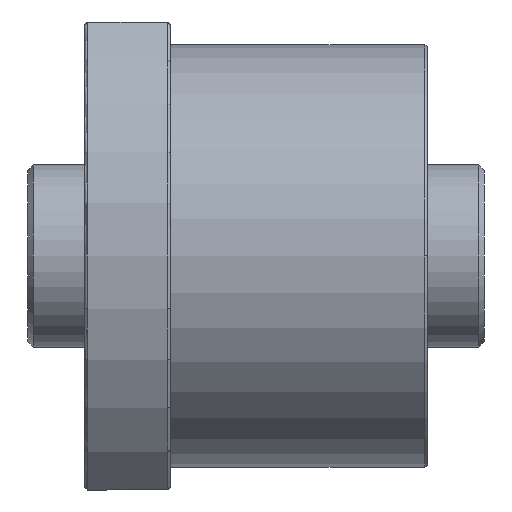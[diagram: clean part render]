
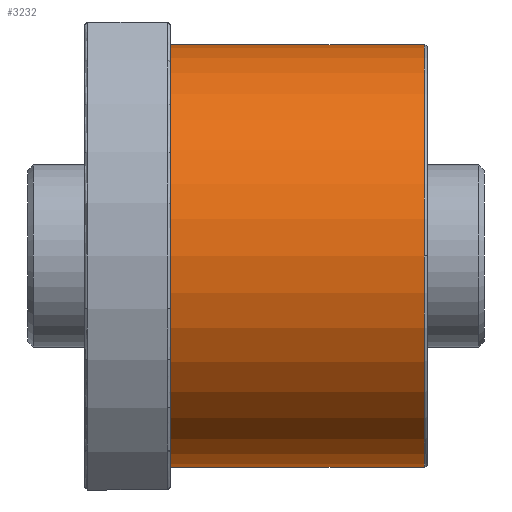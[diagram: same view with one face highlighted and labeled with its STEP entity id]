
A CAD part, front view. The second image highlights one B-rep face of the part: STEP entity #3232.
In plain terms, the highlighted cylindrical face has radius 37 mm (diameter 74 mm), a partial arc.
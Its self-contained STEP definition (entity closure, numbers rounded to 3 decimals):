
#173 = VERTEX_POINT ( 'NONE', #480 ) ;
#310 = ORIENTED_EDGE ( 'NONE', *, *, #3960, .T. ) ;
#316 = VERTEX_POINT ( 'NONE', #5070 ) ;
#476 = AXIS2_PLACEMENT_3D ( 'NONE', #2812, #1726, #1752 ) ;
#480 = CARTESIAN_POINT ( 'NONE',  ( 15., 0., 37. ) ) ;
#484 = EDGE_LOOP ( 'NONE', ( #5935, #7182, #310, #5362, #893 ) ) ;
#531 = CARTESIAN_POINT ( 'NONE',  ( 59.5, 0., -37. ) ) ;
#618 = VECTOR ( 'NONE', #7559, 1000. ) ;
#893 = ORIENTED_EDGE ( 'NONE', *, *, #6530, .F. ) ;
#897 = LINE ( 'NONE', #7638, #618 ) ;
#1123 = FACE_OUTER_BOUND ( 'NONE', #484, .T. ) ;
#1171 = CARTESIAN_POINT ( 'NONE',  ( 15., 0., 0. ) ) ;
#1726 = DIRECTION ( 'NONE',  ( -1., 0., 0. ) ) ;
#1752 = DIRECTION ( 'NONE',  ( 0., 0., 1. ) ) ;
#2203 = CARTESIAN_POINT ( 'NONE',  ( 59.5, 0., 0. ) ) ;
#2627 = VERTEX_POINT ( 'NONE', #6334 ) ;
#2695 = VECTOR ( 'NONE', #7256, 1000. ) ;
#2812 = CARTESIAN_POINT ( 'NONE',  ( 60., 0., 0. ) ) ;
#3059 = CYLINDRICAL_SURFACE ( 'NONE', #476, 37. ) ;
#3103 = CARTESIAN_POINT ( 'NONE',  ( 60., 0., 37. ) ) ;
#3217 = EDGE_CURVE ( 'NONE', #7520, #2627, #6286, .T. ) ;
#3232 = ADVANCED_FACE ( 'NONE', ( #1123 ), #3059, .T. ) ;
#3960 = EDGE_CURVE ( 'NONE', #2627, #7271, #7643, .T. ) ;
#4083 = DIRECTION ( 'NONE',  ( -1., 0., 0. ) ) ;
#4141 = AXIS2_PLACEMENT_3D ( 'NONE', #2203, #7659, #7683 ) ;
#4390 = CIRCLE ( 'NONE', #7103, 37. ) ;
#4743 = AXIS2_PLACEMENT_3D ( 'NONE', #5277, #4083, #5390 ) ;
#5065 = EDGE_CURVE ( 'NONE', #7271, #173, #5826, .T. ) ;
#5070 = CARTESIAN_POINT ( 'NONE',  ( 15., 0., -37. ) ) ;
#5277 = CARTESIAN_POINT ( 'NONE',  ( 59.5, 0., 0. ) ) ;
#5362 = ORIENTED_EDGE ( 'NONE', *, *, #5065, .T. ) ;
#5368 = DIRECTION ( 'NONE',  ( 0., 0., 1. ) ) ;
#5390 = DIRECTION ( 'NONE',  ( 0., 0., 1. ) ) ;
#5826 = LINE ( 'NONE', #3103, #2695 ) ;
#5935 = ORIENTED_EDGE ( 'NONE', *, *, #6824, .F. ) ;
#6286 = CIRCLE ( 'NONE', #4743, 37. ) ;
#6334 = CARTESIAN_POINT ( 'NONE',  ( 59.5, -37., 0. ) ) ;
#6530 = EDGE_CURVE ( 'NONE', #316, #173, #4390, .T. ) ;
#6824 = EDGE_CURVE ( 'NONE', #7520, #316, #897, .T. ) ;
#7103 = AXIS2_PLACEMENT_3D ( 'NONE', #1171, #7781, #5368 ) ;
#7182 = ORIENTED_EDGE ( 'NONE', *, *, #3217, .T. ) ;
#7256 = DIRECTION ( 'NONE',  ( -1., 0., 0. ) ) ;
#7271 = VERTEX_POINT ( 'NONE', #7573 ) ;
#7520 = VERTEX_POINT ( 'NONE', #531 ) ;
#7559 = DIRECTION ( 'NONE',  ( -1., 0., 0. ) ) ;
#7573 = CARTESIAN_POINT ( 'NONE',  ( 59.5, 0., 37. ) ) ;
#7638 = CARTESIAN_POINT ( 'NONE',  ( 60., 0., -37. ) ) ;
#7643 = CIRCLE ( 'NONE', #4141, 37. ) ;
#7659 = DIRECTION ( 'NONE',  ( -1., 0., 0. ) ) ;
#7683 = DIRECTION ( 'NONE',  ( 0., 0., 1. ) ) ;
#7781 = DIRECTION ( 'NONE',  ( -1., 0., 0. ) ) ;
